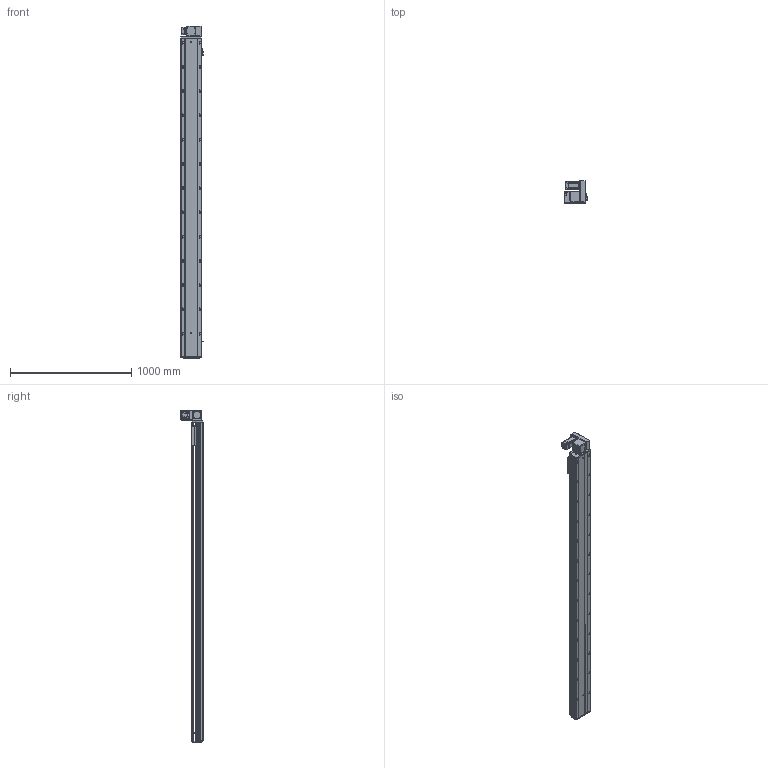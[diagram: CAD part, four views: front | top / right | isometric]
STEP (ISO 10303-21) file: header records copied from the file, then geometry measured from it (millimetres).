
FILE_DESCRIPTION (( 'STEP AP203' ), '1' );
FILE_NAME ('RY170-T-300-UR-P400W.SLDASM_2350.step', '2021-03-01T09:29:38', ( '盈信电脑' ), ( '东莞市道滘镇水果街19号' ), 'SwSTEP 2.0', 'SolidWorks 2012', '' );
FILE_SCHEMA (( 'CONFIG_CONTROL_DESIGN' ));
Length unit declared in the file: millimetre
Products named in the file (18): 15; RY170-T-300-UR-P400W.SLDASM_2350; RY170-T蹟翐M4; RY170-T肮祭謫裔啣; RY120-T主同步轮轴承压盖; 滅袉蝶18-10; RY170同步轮电机安装板(400W); RY170-T肮祭湍揤踡輸1; RY170-T肮祭湍揤踡輸2; RY170肮祭謫萇儂欶; RY170外置感应片(200共用）; RY170翋肮祭謫釱; 覜茼ん672; RY170肮祭謫ヶ裔啣; RY170-T-300肮祭謫倰第裔啣-DR_2350; RY170綴裔啣; RY170-T-300肮祭謫倰第菁釱-DR_2350; RY170肮祭湍臏賑輸
Assembly tree (22 placements, depth 2):
  RY170-T-300-UR-P400W.SLDASM_2350
    RY170-T-300肮祭謫倰第菁釱-DR_2350
    RY170肮祭湍臏賑輸
    RY170-T-300肮祭謫倰第裔啣-DR_2350
    RY170綴裔啣
    覜茼ん672  x3
    RY170外置感应片(200共用）
    RY170肮祭謫ヶ裔啣
    RY170翋肮祭謫釱
    RY170同步轮电机安装板(400W)
    RY170肮祭謫萇儂欶
    RY170-T肮祭湍揤踡輸1  x2
    RY170-T肮祭湍揤踡輸2  x2
    RY120-T主同步轮轴承压盖
    RY170-T肮祭謫裔啣
    RY170-T蹟翐M4
    滅袉蝶18-10  x2
    15
Bounding box: 183.7 x 182 x 2738 mm (x, y, z)
Volume: 12547461.3 mm3; surface area: 4336881.3 mm2
Topology: 22 solids, 22 shells, 3088 faces, 8682 edges, 5523 vertices
Faces by surface type: cylinder 1458, plane 1272, cone 328, bspline 30
Entity records: 94480 total; most frequent: CARTESIAN_POINT 22128, ORIENTED_EDGE 14888, DIRECTION 14470, EDGE_CURVE 7444, AXIS2_PLACEMENT_3D 5155, VERTEX_POINT 4879, LINE 4160, VECTOR 4160
